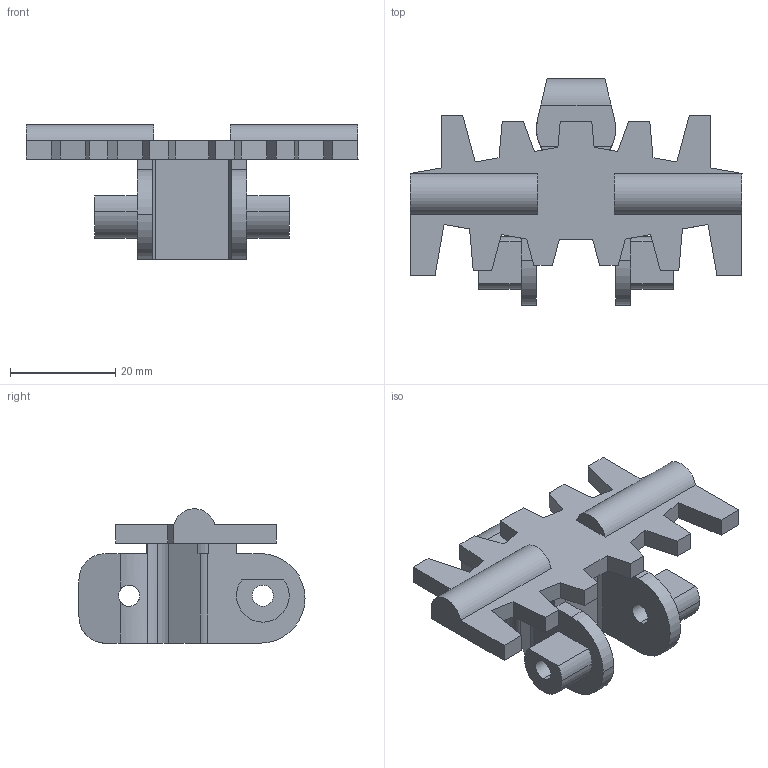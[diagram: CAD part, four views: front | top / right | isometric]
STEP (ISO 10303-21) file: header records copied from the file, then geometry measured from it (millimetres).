
FILE_DESCRIPTION (( 'STEP AP214' ), '1' );
FILE_NAME ('FSCT-5B.STEP', '2011-04-14T11:11:11', ( '.' ), ( '' ), 'SwSTEP 2.0', 'SolidWorks 2010', '' );
FILE_SCHEMA (( 'AUTOMOTIVE_DESIGN' ));
Length unit declared in the file: millimetre
Products named in the file (1): FSCT-5B
Bounding box: 63 x 42.9 x 25.5 mm (x, y, z)
Volume: 13857.2 mm3; surface area: 7805.1 mm2
Topology: 1 solids, 1 shells, 106 faces, 308 edges, 204 vertices
Faces by surface type: plane 76, cylinder 30
Entity records: 4599 total; most frequent: CARTESIAN_POINT 733, ORIENTED_EDGE 616, DIRECTION 562, EDGE_CURVE 308, LINE 240, VECTOR 240, VERTEX_POINT 204, AXIS2_PLACEMENT_3D 161
